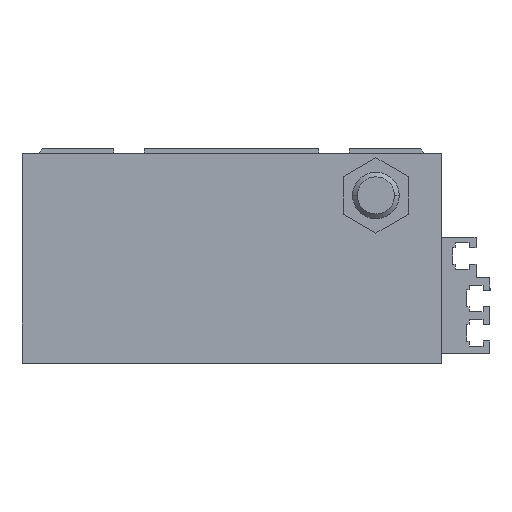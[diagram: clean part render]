
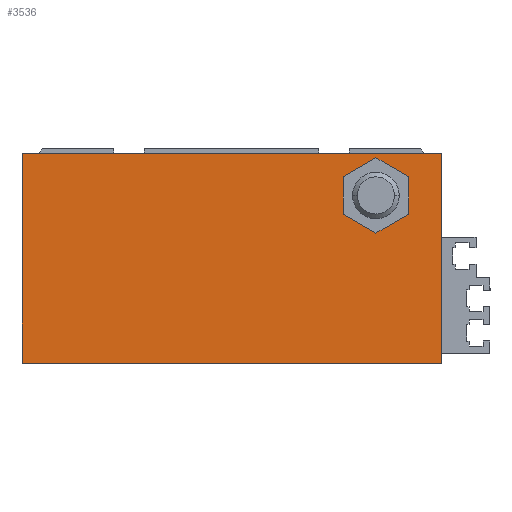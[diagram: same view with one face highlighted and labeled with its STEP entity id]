
A CAD part, front view. The second image highlights one B-rep face of the part: STEP entity #3536.
In plain terms, the highlighted planar face has unit normal (0, -1, 0).
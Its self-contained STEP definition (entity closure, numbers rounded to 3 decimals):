
#1866=CARTESIAN_POINT('',(31.,-27.0,20.083));
#1867=VERTEX_POINT('',#1866);
#1874=CARTESIAN_POINT('',(24.,-27.0,16.041));
#1875=VERTEX_POINT('',#1874);
#1876=CARTESIAN_POINT('',(24.,-27.0,16.041));
#1877=DIRECTION('',(0.866,0.0,0.5));
#1878=VECTOR('',#1877,8.083);
#1879=LINE('',#1876,#1878);
#1880=EDGE_CURVE('',#1875,#1867,#1879,.T.);
#1904=CARTESIAN_POINT('',(38.0,-27.0,16.041));
#1905=VERTEX_POINT('',#1904);
#1912=CARTESIAN_POINT('',(31.,-27.0,20.083));
#1913=DIRECTION('',(0.866,0.0,-0.5));
#1914=VECTOR('',#1913,8.083);
#1915=LINE('',#1912,#1914);
#1916=EDGE_CURVE('',#1867,#1905,#1915,.T.);
#1935=CARTESIAN_POINT('',(38.,-27.0,7.959));
#1936=VERTEX_POINT('',#1935);
#1943=CARTESIAN_POINT('',(38.0,-27.0,16.041));
#1944=DIRECTION('',(0.0,0.0,-1.0));
#1945=VECTOR('',#1944,8.083);
#1946=LINE('',#1943,#1945);
#1947=EDGE_CURVE('',#1905,#1936,#1946,.T.);
#1966=CARTESIAN_POINT('',(31.,-27.0,3.917));
#1967=VERTEX_POINT('',#1966);
#1974=CARTESIAN_POINT('',(38.,-27.0,7.959));
#1975=DIRECTION('',(-0.866,0.0,-0.5));
#1976=VECTOR('',#1975,8.083);
#1977=LINE('',#1974,#1976);
#1978=EDGE_CURVE('',#1936,#1967,#1977,.T.);
#1997=CARTESIAN_POINT('',(24.,-27.0,7.959));
#1998=VERTEX_POINT('',#1997);
#2005=CARTESIAN_POINT('',(31.,-27.0,3.917));
#2006=DIRECTION('',(-0.866,0.0,0.5));
#2007=VECTOR('',#2006,8.083);
#2008=LINE('',#2005,#2007);
#2009=EDGE_CURVE('',#1967,#1998,#2008,.T.);
#2027=CARTESIAN_POINT('',(24.,-27.0,7.959));
#2028=DIRECTION('',(0.0,0.0,1.0));
#2029=VECTOR('',#2028,8.083);
#2030=LINE('',#2027,#2029);
#2031=EDGE_CURVE('',#1998,#1875,#2030,.T.);
#2402=CARTESIAN_POINT('',(45.,-27.0,-24.));
#2403=VERTEX_POINT('',#2402);
#2404=CARTESIAN_POINT('',(-45.,-27.0,-24.));
#2405=VERTEX_POINT('',#2404);
#2406=CARTESIAN_POINT('',(45.,-27.0,-24.));
#2407=DIRECTION('',(-1.0,0.0,0.0));
#2408=VECTOR('',#2407,90.0);
#2409=LINE('',#2406,#2408);
#2410=EDGE_CURVE('',#2403,#2405,#2409,.T.);
#3238=CARTESIAN_POINT('',(-45.,-27.0,21.));
#3239=VERTEX_POINT('',#3238);
#3240=CARTESIAN_POINT('',(-45.,-27.0,-24.));
#3241=DIRECTION('',(0.0,0.0,1.0));
#3242=VECTOR('',#3241,45.);
#3243=LINE('',#3240,#3242);
#3244=EDGE_CURVE('',#2405,#3239,#3243,.T.);
#3315=CARTESIAN_POINT('',(45.0,-27.0,21.));
#3316=VERTEX_POINT('',#3315);
#3317=CARTESIAN_POINT('',(45.0,-27.0,21.));
#3318=DIRECTION('',(0.0,0.0,-1.0));
#3319=VECTOR('',#3318,45.0);
#3320=LINE('',#3317,#3319);
#3321=EDGE_CURVE('',#3316,#2403,#3320,.T.);
#3497=CARTESIAN_POINT('',(-45.,-27.0,21.));
#3498=DIRECTION('',(1.0,0.0,0.0));
#3499=VECTOR('',#3498,90.0);
#3500=LINE('',#3497,#3499);
#3501=EDGE_CURVE('',#3239,#3316,#3500,.T.);
#3517=CARTESIAN_POINT('',(0.,-27.0,-1.5));
#3518=DIRECTION('',(0.0,1.0,0.0));
#3519=DIRECTION('',(0.0,0.0,1.0));
#3520=AXIS2_PLACEMENT_3D('',#3517,#3518,#3519);
#3521=PLANE('',#3520);
#3522=ORIENTED_EDGE('',*,*,#3244,.F.);
#3523=ORIENTED_EDGE('',*,*,#2410,.F.);
#3524=ORIENTED_EDGE('',*,*,#3321,.F.);
#3525=ORIENTED_EDGE('',*,*,#3501,.F.);
#3526=EDGE_LOOP('',(#3522,#3523,#3524,#3525));
#3527=FACE_OUTER_BOUND('',#3526,.T.);
#3528=ORIENTED_EDGE('',*,*,#1880,.T.);
#3529=ORIENTED_EDGE('',*,*,#1916,.T.);
#3530=ORIENTED_EDGE('',*,*,#1947,.T.);
#3531=ORIENTED_EDGE('',*,*,#1978,.T.);
#3532=ORIENTED_EDGE('',*,*,#2009,.T.);
#3533=ORIENTED_EDGE('',*,*,#2031,.T.);
#3534=EDGE_LOOP('',(#3528,#3529,#3530,#3531,#3532,#3533));
#3535=FACE_BOUND('',#3534,.T.);
#3536=ADVANCED_FACE('',(#3527,#3535),#3521,.F.);
